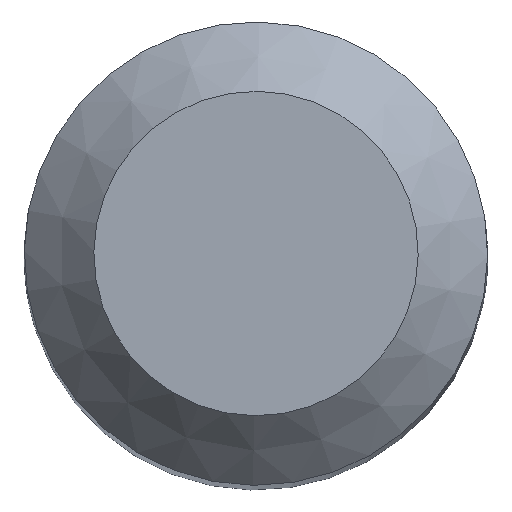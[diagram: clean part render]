
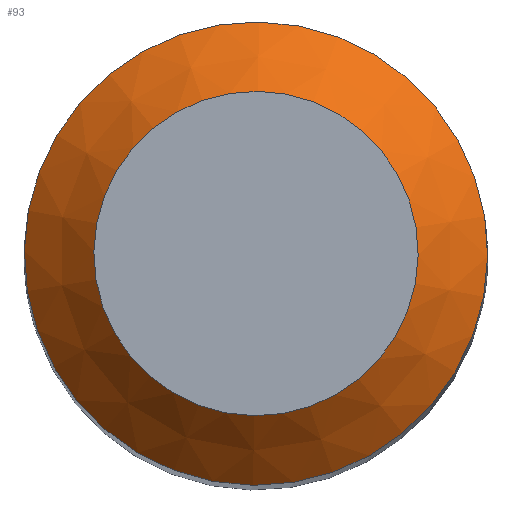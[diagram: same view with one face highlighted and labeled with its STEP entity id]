
A CAD part, top view. The second image highlights one B-rep face of the part: STEP entity #93.
In plain terms, the highlighted conical face has half-angle 45 degrees and reference radius 3 mm.
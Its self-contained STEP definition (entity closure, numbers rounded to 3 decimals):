
#67=FACE_BOUND('',#144,.T.);
#68=FACE_BOUND('',#145,.T.);
#75=CONICAL_SURFACE('',#458,3.,45.);
#93=ADVANCED_FACE('',(#67,#68),#75,.T.);
#144=EDGE_LOOP('',(#246));
#145=EDGE_LOOP('',(#247));
#161=CIRCLE('',#455,3.);
#162=CIRCLE('',#457,2.1);
#246=ORIENTED_EDGE('',*,*,#351,.F.);
#247=ORIENTED_EDGE('',*,*,#348,.T.);
#299=VERTEX_POINT('',#14957);
#300=VERTEX_POINT('',#15016);
#348=EDGE_CURVE('',#299,#299,#161,.T.);
#351=EDGE_CURVE('',#300,#300,#162,.T.);
#455=AXIS2_PLACEMENT_3D('',#14956,#518,#519);
#457=AXIS2_PLACEMENT_3D('',#15015,#522,#523);
#458=AXIS2_PLACEMENT_3D('',#15017,#524,#525);
#518=DIRECTION('',(0.,0.,1.));
#519=DIRECTION('',(0.872,0.489,0.));
#522=DIRECTION('',(0.,0.,1.));
#523=DIRECTION('',(0.872,0.489,0.));
#524=DIRECTION('',(0.,0.,-1.));
#525=DIRECTION('',(-0.872,-0.489,0.));
#14956=CARTESIAN_POINT('',(0.,0.,-0.9));
#14957=CARTESIAN_POINT('',(2.617,1.467,-0.9));
#15015=CARTESIAN_POINT('',(0.,0.,0.));
#15016=CARTESIAN_POINT('',(1.832,1.027,0.));
#15017=CARTESIAN_POINT('',(0.,0.,-0.9));
